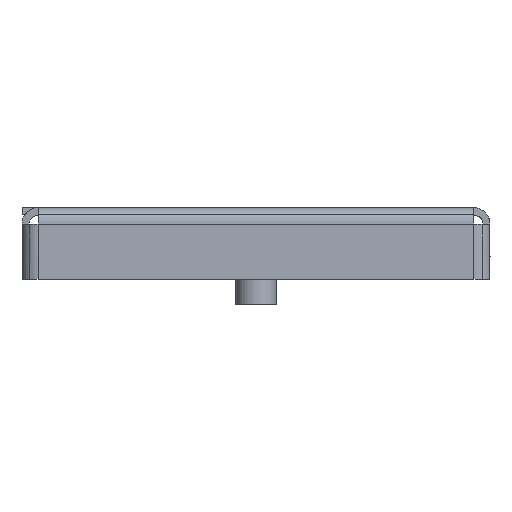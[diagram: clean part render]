
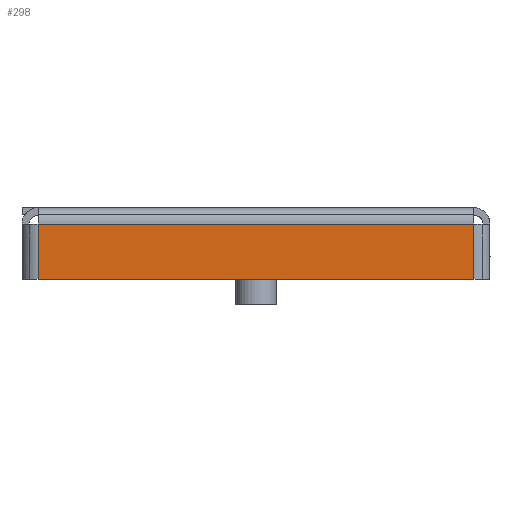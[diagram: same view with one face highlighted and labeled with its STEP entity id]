
A CAD part, left-side view. The second image highlights one B-rep face of the part: STEP entity #298.
In plain terms, the highlighted planar face has unit normal (-1, 0, 0).
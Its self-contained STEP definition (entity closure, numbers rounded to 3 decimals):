
#298=ADVANCED_FACE('',(#2370),#2372,.F.);
#2370=FACE_BOUND('',#2371,.T.);
#2371=EDGE_LOOP('',(#4426,#4427,#4428,#4429));
#2372=PLANE('',#2373);
#2373=AXIS2_PLACEMENT_3D('',#2374,#2375,#2376);
#2374=CARTESIAN_POINT('',(-386.043,-7.555,0.));
#2375=DIRECTION('',(1.,0.,0.));
#2376=DIRECTION('',(0.,0.,-1.));
#4426=ORIENTED_EDGE('',*,*,#5557,.F.);
#4427=ORIENTED_EDGE('',*,*,#5559,.F.);
#4428=ORIENTED_EDGE('',*,*,#5560,.F.);
#4429=ORIENTED_EDGE('',*,*,#5561,.F.);
#5557=EDGE_CURVE('',#6395,#6388,#6399,.T.);
#5559=EDGE_CURVE('',#6401,#6395,#6402,.T.);
#5560=EDGE_CURVE('',#6403,#6401,#6404,.T.);
#5561=EDGE_CURVE('',#6388,#6403,#6405,.T.);
#6388=VERTEX_POINT('',#7935);
#6395=VERTEX_POINT('',#7955);
#6399=LINE('',#7966,#7967);
#6401=VERTEX_POINT('',#7972);
#6402=LINE('',#7973,#7974);
#6403=VERTEX_POINT('',#7976);
#6404=LINE('',#7977,#7978);
#6405=LINE('',#7980,#7981);
#7935=CARTESIAN_POINT('',(-386.043,-50.105,-3.2));
#7955=CARTESIAN_POINT('',(-386.043,34.995,-3.2));
#7966=CARTESIAN_POINT('',(-386.043,34.995,-3.2));
#7967=VECTOR('',#7968,1.);
#7968=DIRECTION('',(0.,-1.,0.));
#7972=CARTESIAN_POINT('',(-386.043,34.995,-14.));
#7973=CARTESIAN_POINT('',(-386.043,34.995,-14.));
#7974=VECTOR('',#7975,1.);
#7975=DIRECTION('',(0.,0.,1.));
#7976=CARTESIAN_POINT('',(-386.043,-50.105,-14.));
#7977=CARTESIAN_POINT('',(-386.043,-50.105,-14.));
#7978=VECTOR('',#7979,1.);
#7979=DIRECTION('',(0.,1.,0.));
#7980=CARTESIAN_POINT('',(-386.043,-50.105,-3.2));
#7981=VECTOR('',#7982,1.);
#7982=DIRECTION('',(0.,0.,-1.));
